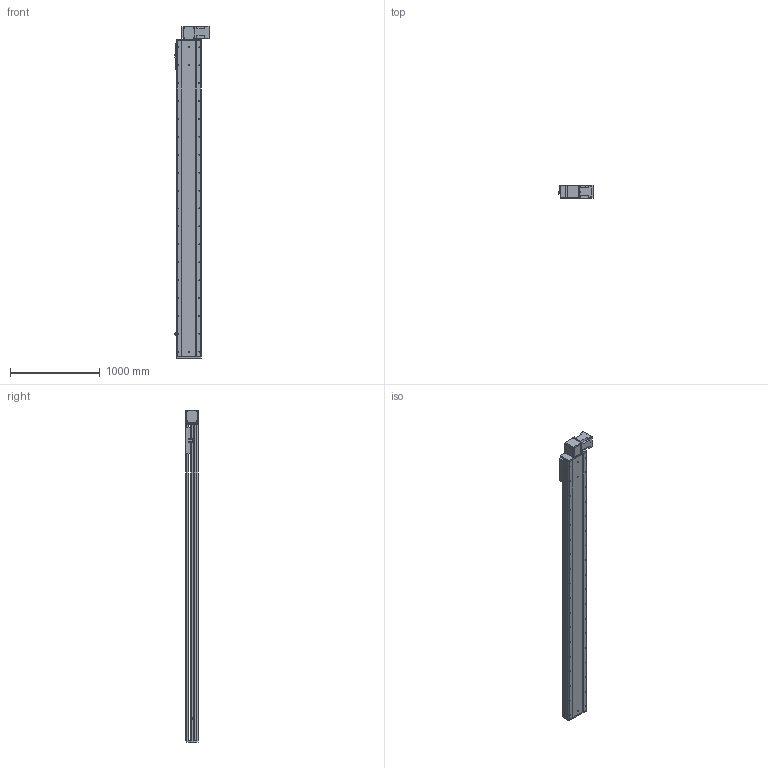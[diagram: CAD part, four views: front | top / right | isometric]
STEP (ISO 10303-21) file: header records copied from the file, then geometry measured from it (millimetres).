
FILE_DESCRIPTION (( 'STEP AP214' ), '1' );
FILE_NAME ('RTB28S-XX-3100-BL-M100-XX-C4.STEP', '2025-12-22T02:36:59', ( '' ), ( '' ), 'SwSTEP 2.0', 'SolidWorks 2018', '' );
FILE_SCHEMA (( 'AUTOMOTIVE_DESIGN' ));
Length unit declared in the file: millimetre
Products named in the file (4): RTB28S-GY-008^RTB28S-XX-XX-BL-M100-XX-C4; RTB28S-GY-004^RTB28S-XX-XX-BL-M100-XX-C4; RTB28S-GY-011^RTB28S-XX-XX-BL-M100-XX-C4; RTB28S-XX-3100-BL-M100-XX-C4
Assembly tree (3 placements, depth 2):
  RTB28S-XX-3100-BL-M100-XX-C4
    RTB28S-GY-011^RTB28S-XX-XX-BL-M100-XX-C4
    RTB28S-GY-004^RTB28S-XX-XX-BL-M100-XX-C4
    RTB28S-GY-008^RTB28S-XX-XX-BL-M100-XX-C4
Bounding box: 380.7 x 145 x 3707 mm (x, y, z)
Volume: 62691217.1 mm3; surface area: 5844332.1 mm2
Topology: 3 solids, 4 shells, 888 faces, 2388 edges, 1528 vertices
Faces by surface type: cylinder 439, plane 365, cone 80, torus 4
Entity records: 34373 total; most frequent: CARTESIAN_POINT 6502, DIRECTION 5082, ORIENTED_EDGE 4712, EDGE_CURVE 2356, AXIS2_PLACEMENT_3D 1876, VERTEX_POINT 1528, VECTOR 1330, LINE 1330
